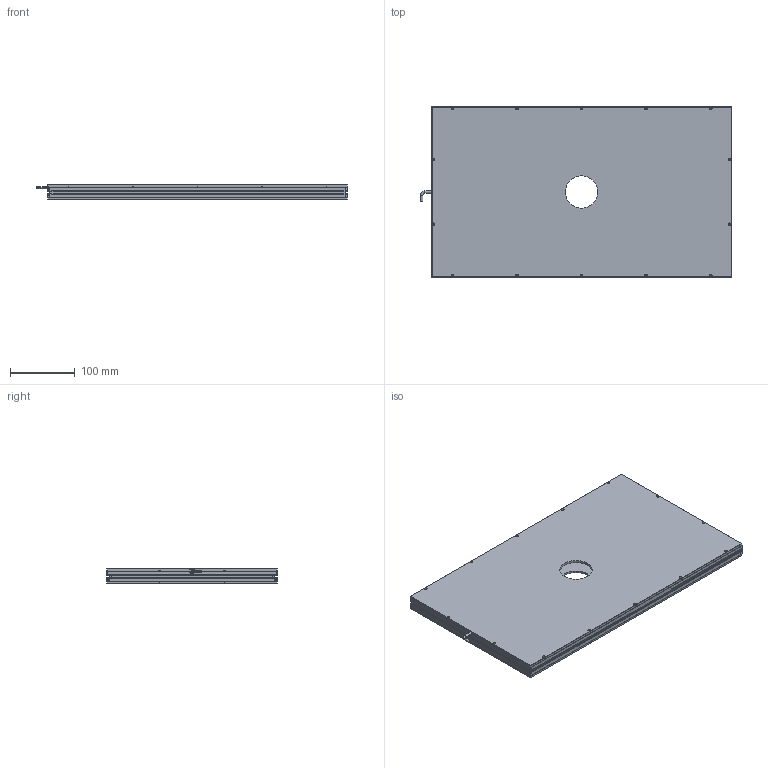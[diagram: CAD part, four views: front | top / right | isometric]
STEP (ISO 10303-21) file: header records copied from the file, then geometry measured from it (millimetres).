
FILE_DESCRIPTION (( 'STEP AP203' ), '1' );
FILE_NAME ('CRT-2KFLD450250Y50-¼òÒ×3DÍ¼.STEP', '2021-11-25T01:14:20', ( 'Admin' ), ( '' ), 'SwSTEP 2.0', 'SolidWorks 2018', '' );
FILE_SCHEMA (( 'CONFIG_CONTROL_DESIGN' ));
Length unit declared in the file: millimetre
Products named in the file (1): CRT-2KFLD450250Y50-潠眢3D芞
Bounding box: 481.25 x 264 x 23 mm (x, y, z)
Surface area: 640089.5 mm2 (no closed solid volume)
Topology: 0 solids, 9 shells, 219 faces, 737 edges, 514 vertices
Faces by surface type: plane 91, cylinder 89, cone 37, bspline 2
Entity records: 8252 total; most frequent: CARTESIAN_POINT 1605, DIRECTION 1435, ORIENTED_EDGE 1198, EDGE_CURVE 737, VERTEX_POINT 514, AXIS2_PLACEMENT_3D 500, LINE 435, VECTOR 435
